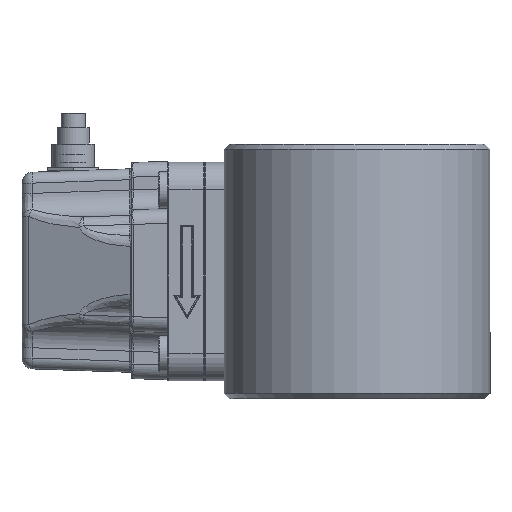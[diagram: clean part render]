
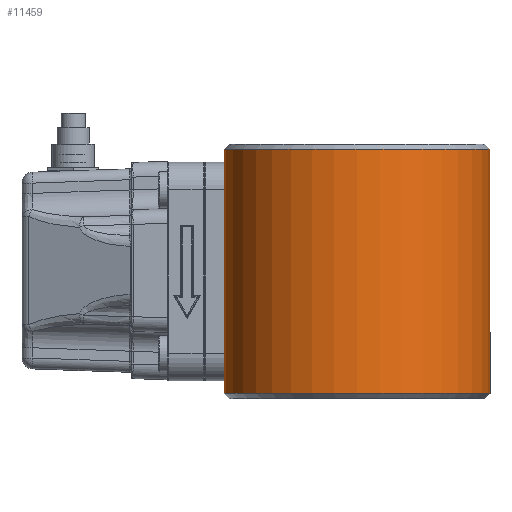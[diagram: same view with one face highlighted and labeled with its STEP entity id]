
A CAD part, left-side view. The second image highlights one B-rep face of the part: STEP entity #11459.
In plain terms, the highlighted cylindrical face has radius 36.5 mm (diameter 73 mm), a partial arc.
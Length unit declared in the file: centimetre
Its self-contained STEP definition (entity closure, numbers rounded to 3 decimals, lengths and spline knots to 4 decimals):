
#2185=VECTOR('',#15602,1.);
#2187=VECTOR('',#15604,1.);
#2719=LINE('',#45047,#2185);
#2721=LINE('',#45059,#2187);
#3810=VERTEX_POINT('',#45034);
#3811=VERTEX_POINT('',#45036);
#3815=VERTEX_POINT('',#45048);
#3818=VERTEX_POINT('',#45058);
#4473=CIRCLE('',#12729,3.65);
#4477=CIRCLE('',#12735,3.65);
#5957=EDGE_CURVE('',#3810,#3811,#4473,.T.);
#5962=EDGE_CURVE('',#3811,#3815,#2719,.T.);
#5966=EDGE_CURVE('',#3810,#3818,#2721,.T.);
#5968=EDGE_CURVE('',#3815,#3818,#4477,.T.);
#8934=ORIENTED_EDGE('',*,*,#5957,.F.);
#8935=ORIENTED_EDGE('',*,*,#5966,.T.);
#8936=ORIENTED_EDGE('',*,*,#5968,.F.);
#8937=ORIENTED_EDGE('',*,*,#5962,.F.);
#9834=EDGE_LOOP('',(#8934,#8935,#8936,#8937));
#10726=FACE_BOUND('',#9834,.T.);
#11459=ADVANCED_FACE('',(#10726),#45339,.T.);
#12729=AXIS2_PLACEMENT_3D('',#45035,#15593,#15594);
#12734=AXIS2_PLACEMENT_3D('',#45061,#15606,#15607);
#12735=AXIS2_PLACEMENT_3D('',#45062,#15608,#15609);
#15593=DIRECTION('',(0.,0.,1.));
#15594=DIRECTION('',(-3.65,0.,0.));
#15602=DIRECTION('',(0.,0.,-1.));
#15604=DIRECTION('',(0.,0.,-1.));
#15606=DIRECTION('',(0.,0.,-1.));
#15607=DIRECTION('',(-3.65,0.,0.));
#15608=DIRECTION('',(0.,0.,-1.));
#15609=DIRECTION('',(-3.65,0.,0.));
#45034=CARTESIAN_POINT('',(-5.519,-5.4417,5.5968));
#45035=CARTESIAN_POINT('',(-8.919,-6.7693,5.5968));
#45036=CARTESIAN_POINT('',(-5.519,-8.0969,5.5968));
#45047=CARTESIAN_POINT('',(-5.519,-8.0969,5.7468));
#45048=CARTESIAN_POINT('',(-5.519,-8.0969,-1.1032));
#45058=CARTESIAN_POINT('',(-5.519,-5.4417,-1.1032));
#45059=CARTESIAN_POINT('',(-5.519,-5.4417,5.7468));
#45061=CARTESIAN_POINT('',(-8.919,-6.7693,5.7468));
#45062=CARTESIAN_POINT('',(-8.919,-6.7693,-1.1032));
#45339=CYLINDRICAL_SURFACE('',#12734,3.65);
